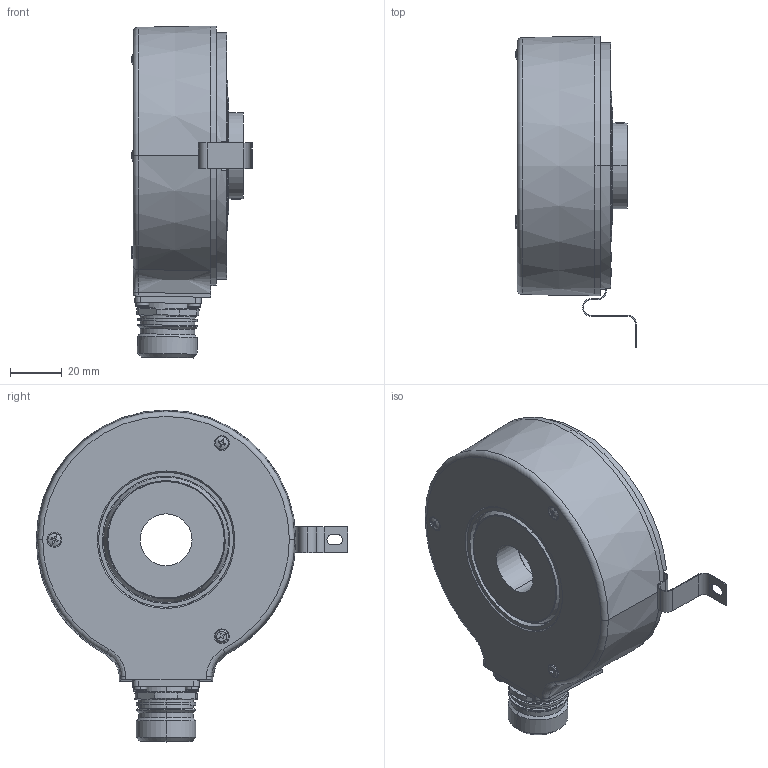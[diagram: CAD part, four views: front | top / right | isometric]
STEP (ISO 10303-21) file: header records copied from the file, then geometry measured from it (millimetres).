
FILE_DESCRIPTION (( 'STEP AP214' ), '1' );
FILE_NAME ('A020.4CX2.XXXX.STEP', '2011-04-20T07:44:58', ( 'admin' ), ( 'Fritz Kübler GmbH' ), 'SwSTEP 2.0', 'SolidWorks 2009', '' );
FILE_SCHEMA (( 'AUTOMOTIVE_DESIGN' ));
Length unit declared in the file: millimetre
Products named in the file (1): A020.4CX2.XXXX
Bounding box: 46.6 x 120 x 127.91 mm (x, y, z)
Volume: 174141.9 mm3; surface area: 87166.9 mm2
Topology: 32 solids, 34 shells, 1143 faces, 2733 edges, 1669 vertices
Faces by surface type: cylinder 465, plane 314, cone 196, sphere 84, torus 80, bspline 4
Entity records: 48089 total; most frequent: CARTESIAN_POINT 8637, DIRECTION 6070, ORIENTED_EDGE 5094, EDGE_CURVE 2547, AXIS2_PLACEMENT_3D 2543, VERTEX_POINT 1597, CIRCLE 1403, EDGE_LOOP 1384
